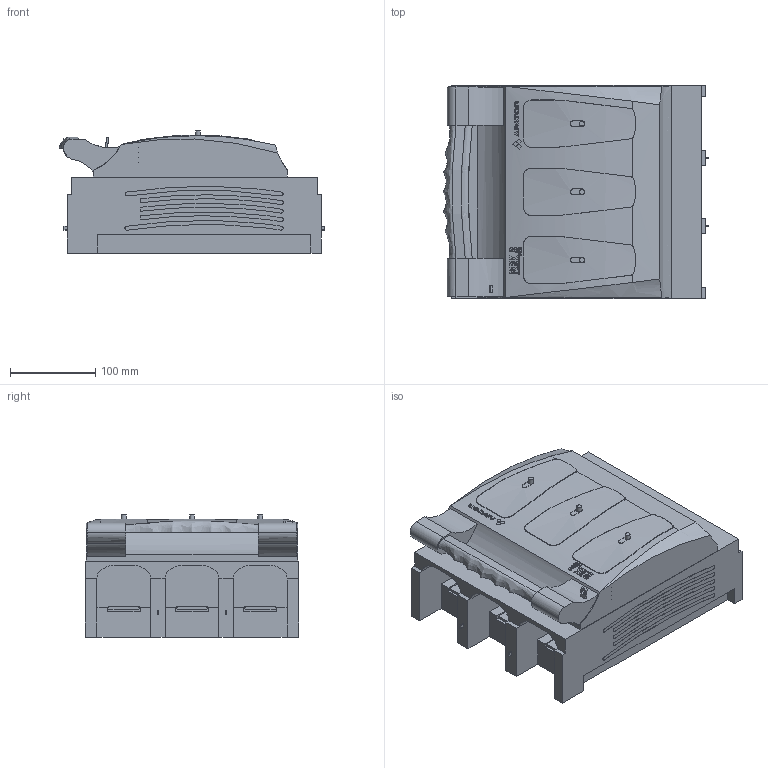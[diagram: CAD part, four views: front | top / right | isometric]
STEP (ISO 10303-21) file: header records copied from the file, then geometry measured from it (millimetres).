
FILE_DESCRIPTION(/* description */ (''),/* implementation_level */ '2;1');
FILE_NAME(/* name */ 'RBK 3 pro - 63-811761-011.stp',/* time_stamp */ '2019-02-21T10:05:32+01:00',/* author */ (''),/* organization */ (''),/* preprocessor_version */ 'ST-DEVELOPER v16',/* originating_system */ 'SIEMENS PLM Software NX 10.0',/* authorisation */ '');
FILE_SCHEMA (('AUTOMOTIVE_DESIGN { 1 0 10303 214 3 1 1 1 }'));
Products named in the file (1): 710_13BC62B99l9b
Bounding box: 311.67 x 250 x 143.6 mm (x, y, z)
Volume: 7326284.4 mm3; surface area: 385519.5 mm2
Topology: 1 solids, 6 shells, 1278 faces, 3614 edges, 2413 vertices
Faces by surface type: extrusion 663, plane 358, cylinder 185, bspline 50, cone 18, sphere 4
Full cylindrical faces by diameter (mm): 11.105 x4
Entity records: 53533 total; most frequent: CARTESIAN_POINT 21376, ORIENTED_EDGE 7216, DIRECTION 5444, EDGE_CURVE 3608, VERTEX_POINT 2419, VECTOR 2348, LINE 1685, B_SPLINE_CURVE_WITH_KNOTS 1598
